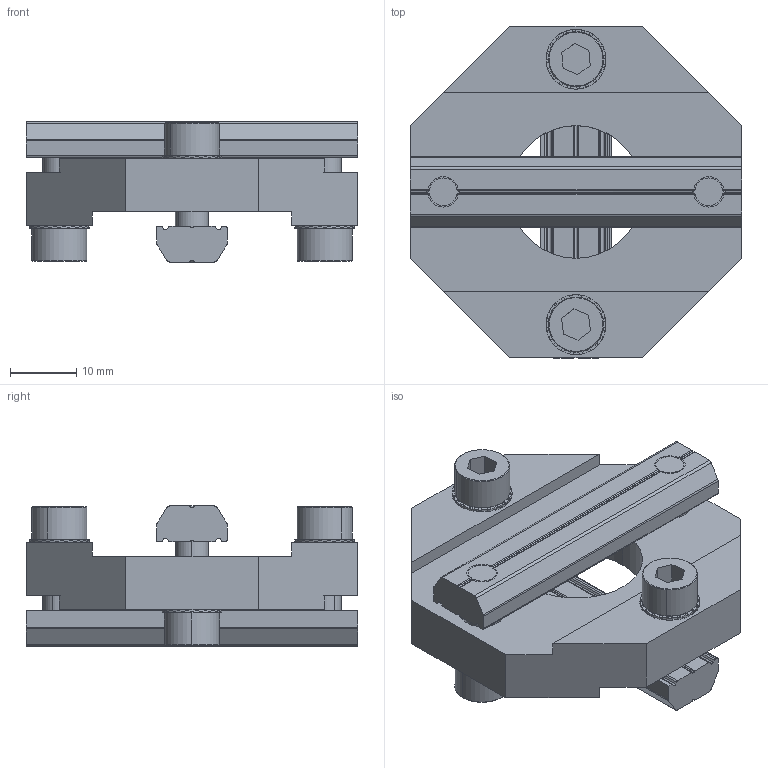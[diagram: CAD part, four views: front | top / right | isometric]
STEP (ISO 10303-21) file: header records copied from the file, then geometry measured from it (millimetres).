
FILE_DESCRIPTION (( 'STEP AP214' ), '1' );
FILE_NAME ('SMBA-3030T.STEP', '2022-12-08T01:25:56', ( '' ), ( '' ), 'SwSTEP 2.0', 'SolidWorks 2018', '' );
FILE_SCHEMA (( 'AUTOMOTIVE_DESIGN' ));
Length unit declared in the file: millimetre
Products named in the file (5): PTN-M5P40; PTC-M5L16; PTS-M5; SMBA3030; SMBA-3030T
Assembly tree (11 placements, depth 2):
  SMBA-3030T
    SMBA3030
    PTS-M5  x4
    PTN-M5P40  x2
    PTC-M5L16  x4
Bounding box: 50 x 50 x 21.1 mm (x, y, z)
Volume: 18758 mm3; surface area: 12019.6 mm2
Topology: 11 solids, 11 shells, 886 faces, 2592 edges, 1720 vertices
Faces by surface type: plane 754, cylinder 108, cone 24
Entity records: 9473 total; most frequent: CARTESIAN_POINT 1764, ORIENTED_EDGE 1602, DIRECTION 1571, EDGE_CURVE 801, VERTEX_POINT 532, AXIS2_PLACEMENT_3D 531, VECTOR 509, LINE 509
